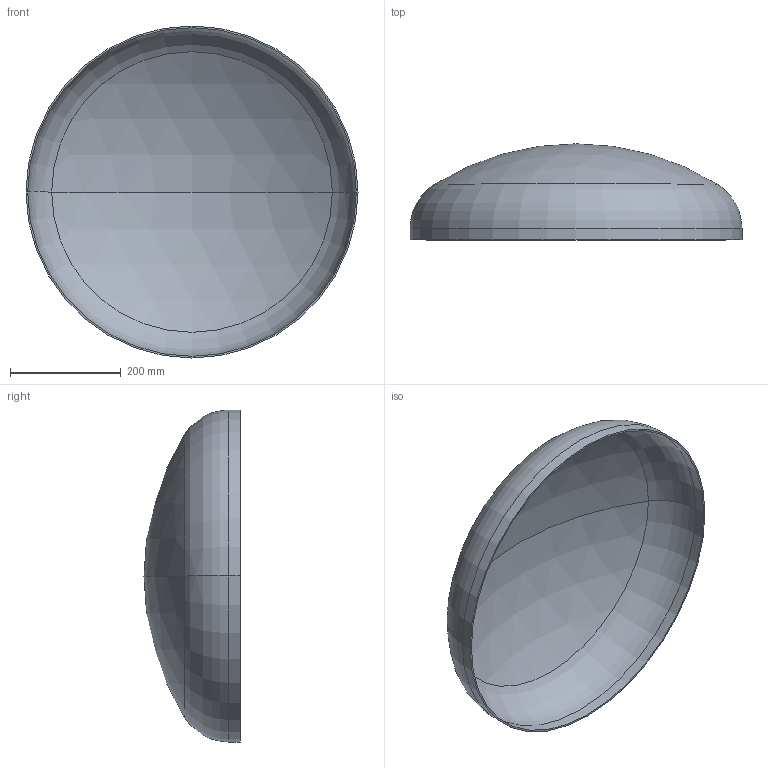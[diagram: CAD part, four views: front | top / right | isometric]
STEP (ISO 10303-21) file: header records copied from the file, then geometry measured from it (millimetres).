
FILE_DESCRIPTION (( 'STEP AP203' ), '1' );
FILE_NAME ('DIN 28013 Korbbogenform_-_Boden DIN 28013 - 600 x 20 - I - s=3.step', '2016-07-01T07:56:33', ( '' ), ( '' ), 'SwSTEP 2.0', 'SolidWorks 2013', '' );
FILE_SCHEMA (( 'CONFIG_CONTROL_DESIGN' ));
Length unit declared in the file: millimetre
Products named in the file (1): DIN 28013 Korbbogenform_-_Boden DIN 28013 - 600 x 20 - I - s=3
Bounding box: 600 x 173.58 x 600 mm (x, y, z)
Volume: 1278635.3 mm3; surface area: 858068.7 mm2
Topology: 1 solids, 1 shells, 13 faces, 24 edges, 14 vertices
Faces by surface type: torus 4, cylinder 4, sphere 4, plane 1
Entity records: 407 total; most frequent: DIRECTION 72, CARTESIAN_POINT 52, ORIENTED_EDGE 48, AXIS2_PLACEMENT_3D 34, EDGE_CURVE 24, CIRCLE 20, VERTEX_POINT 14, EDGE_LOOP 14
